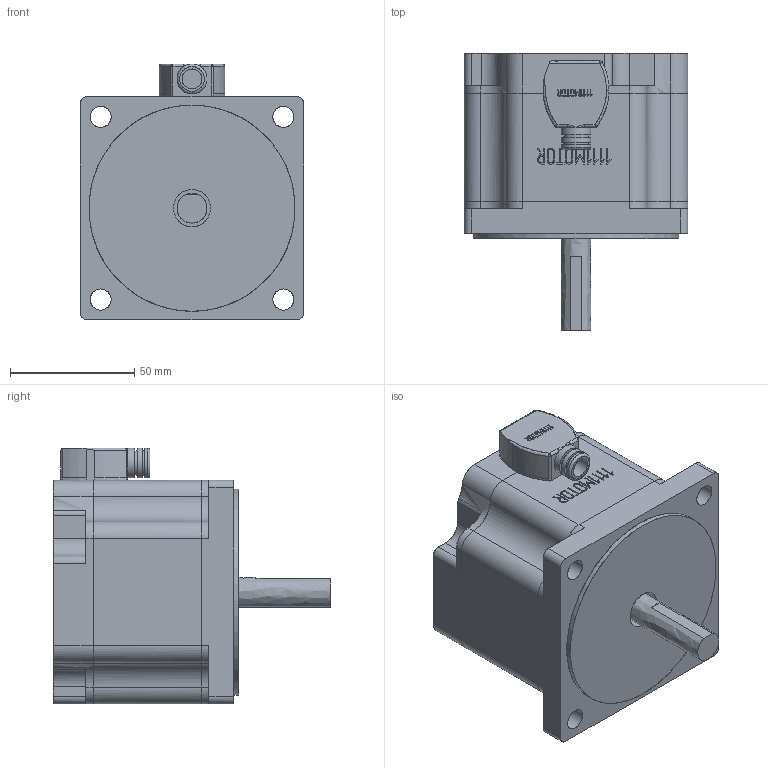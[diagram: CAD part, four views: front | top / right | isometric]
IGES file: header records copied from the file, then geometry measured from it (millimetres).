
Start section: C
Global section: file name: BL90N.igs; native system: By Siemens PLM Incorporated; preprocessor: XPlus GENERIC/IGES 17.0.49; author: Author; organization: Title; date: 20170219.230305; units: millimetre
Bounding box: 90 x 111.5 x 103 mm (x, y, z)
Surface area: 81464.6 mm2 (no closed solid volume)
Topology: 0 solids, 0 shells, 315 faces, 1986 edges, 1981 vertices
Faces by surface type: bspline 315
